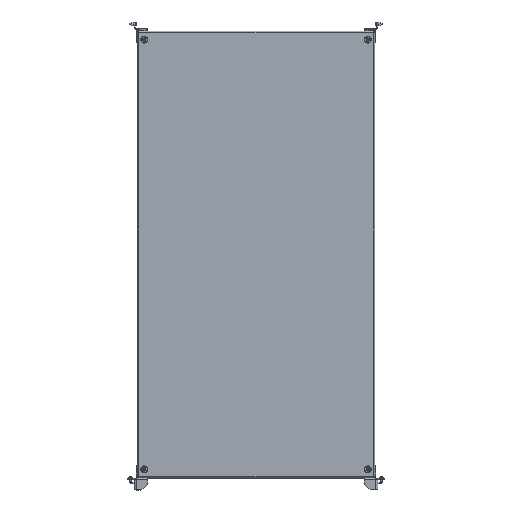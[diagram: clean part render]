
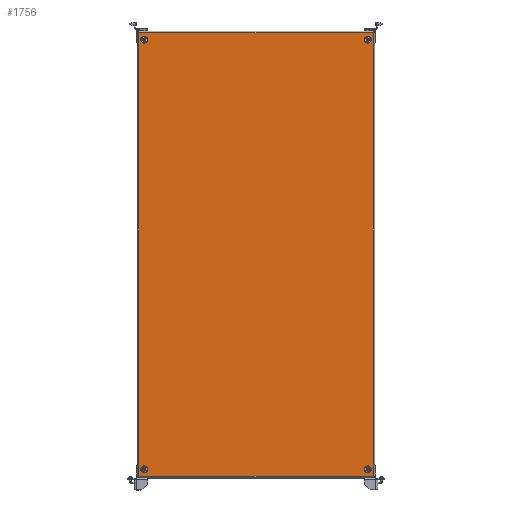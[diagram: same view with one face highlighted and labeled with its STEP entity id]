
A CAD part, top view. The second image highlights one B-rep face of the part: STEP entity #1756.
In plain terms, the highlighted planar face has unit normal (0, 0, 1).
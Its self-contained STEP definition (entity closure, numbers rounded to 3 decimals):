
#1756=ADVANCED_FACE('',(#9160,#9162,#9164,#9166,#9168),#9170,.T.);
#9160=FACE_BOUND('',#9161,.T.);
#9161=EDGE_LOOP('',(#16145,#16146,#16147,#16148));
#9162=FACE_BOUND('',#9163,.T.);
#9163=EDGE_LOOP('',(#16149));
#9164=FACE_BOUND('',#9165,.T.);
#9165=EDGE_LOOP('',(#16150));
#9166=FACE_BOUND('',#9167,.T.);
#9167=EDGE_LOOP('',(#16151));
#9168=FACE_BOUND('',#9169,.T.);
#9169=EDGE_LOOP('',(#16152));
#9170=PLANE('',#9171);
#9171=AXIS2_PLACEMENT_3D('',#9172,#9173,#9174);
#9172=CARTESIAN_POINT('',(0.,0.,2.));
#9173=DIRECTION('',(0.,0.,1.));
#9174=DIRECTION('',(1.,0.,0.));
#16145=ORIENTED_EDGE('',*,*,#19785,.T.);
#16146=ORIENTED_EDGE('',*,*,#19646,.T.);
#16147=ORIENTED_EDGE('',*,*,#19786,.T.);
#16148=ORIENTED_EDGE('',*,*,#19787,.T.);
#16149=ORIENTED_EDGE('',*,*,#19788,.T.);
#16150=ORIENTED_EDGE('',*,*,#19789,.T.);
#16151=ORIENTED_EDGE('',*,*,#19790,.T.);
#16152=ORIENTED_EDGE('',*,*,#19791,.T.);
#19646=EDGE_CURVE('',#21901,#21903,#21905,.T.);
#19785=EDGE_CURVE('',#22119,#21901,#22120,.T.);
#19786=EDGE_CURVE('',#21903,#22121,#22122,.T.);
#19787=EDGE_CURVE('',#22121,#22119,#22123,.T.);
#19788=EDGE_CURVE('',#22124,#22124,#22125,.F.);
#19789=EDGE_CURVE('',#22126,#22126,#22127,.F.);
#19790=EDGE_CURVE('',#22128,#22128,#22129,.F.);
#19791=EDGE_CURVE('',#22130,#22130,#22131,.F.);
#21901=VERTEX_POINT('',#27391);
#21903=VERTEX_POINT('',#27396);
#21905=LINE('',#27401,#27402);
#22119=VERTEX_POINT('',#27930);
#22120=LINE('',#27931,#27932);
#22121=VERTEX_POINT('',#27934);
#22122=LINE('',#27935,#27936);
#22123=LINE('',#27938,#27939);
#22124=VERTEX_POINT('',#27941);
#22125=CIRCLE('',#27942,10.);
#22126=VERTEX_POINT('',#27946);
#22127=CIRCLE('',#27947,10.);
#22128=VERTEX_POINT('',#27951);
#22129=CIRCLE('',#27952,10.);
#22130=VERTEX_POINT('',#27956);
#22131=CIRCLE('',#27957,10.);
#27391=CARTESIAN_POINT('',(4.6,1285.4,2.));
#27396=CARTESIAN_POINT('',(4.6,4.6,2.));
#27401=CARTESIAN_POINT('',(4.6,1285.4,2.));
#27402=VECTOR('',#27403,1.);
#27403=DIRECTION('',(0.,-1.,0.));
#27930=CARTESIAN_POINT('',(680.4,1285.4,2.));
#27931=CARTESIAN_POINT('',(680.4,1285.4,2.));
#27932=VECTOR('',#27933,1.);
#27933=DIRECTION('',(-1.,0.,0.));
#27934=CARTESIAN_POINT('',(680.4,4.6,2.));
#27935=CARTESIAN_POINT('',(4.6,4.6,2.));
#27936=VECTOR('',#27937,1.);
#27937=DIRECTION('',(1.,0.,0.));
#27938=CARTESIAN_POINT('',(680.4,4.6,2.));
#27939=VECTOR('',#27940,1.);
#27940=DIRECTION('',(0.,1.,0.));
#27941=CARTESIAN_POINT('',(30.,25.,2.));
#27942=AXIS2_PLACEMENT_3D('',#27943,#27944,#27945);
#27943=CARTESIAN_POINT('',(20.,25.,2.));
#27944=DIRECTION('',(0.,0.,1.));
#27945=DIRECTION('',(1.,0.,0.));
#27946=CARTESIAN_POINT('',(675.,1265.,2.));
#27947=AXIS2_PLACEMENT_3D('',#27948,#27949,#27950);
#27948=CARTESIAN_POINT('',(665.,1265.,2.));
#27949=DIRECTION('',(0.,0.,1.));
#27950=DIRECTION('',(1.,0.,0.));
#27951=CARTESIAN_POINT('',(30.,1265.,2.));
#27952=AXIS2_PLACEMENT_3D('',#27953,#27954,#27955);
#27953=CARTESIAN_POINT('',(20.,1265.,2.));
#27954=DIRECTION('',(0.,0.,1.));
#27955=DIRECTION('',(1.,0.,0.));
#27956=CARTESIAN_POINT('',(675.,25.,2.));
#27957=AXIS2_PLACEMENT_3D('',#27958,#27959,#27960);
#27958=CARTESIAN_POINT('',(665.,25.,2.));
#27959=DIRECTION('',(0.,0.,1.));
#27960=DIRECTION('',(1.,0.,0.));
